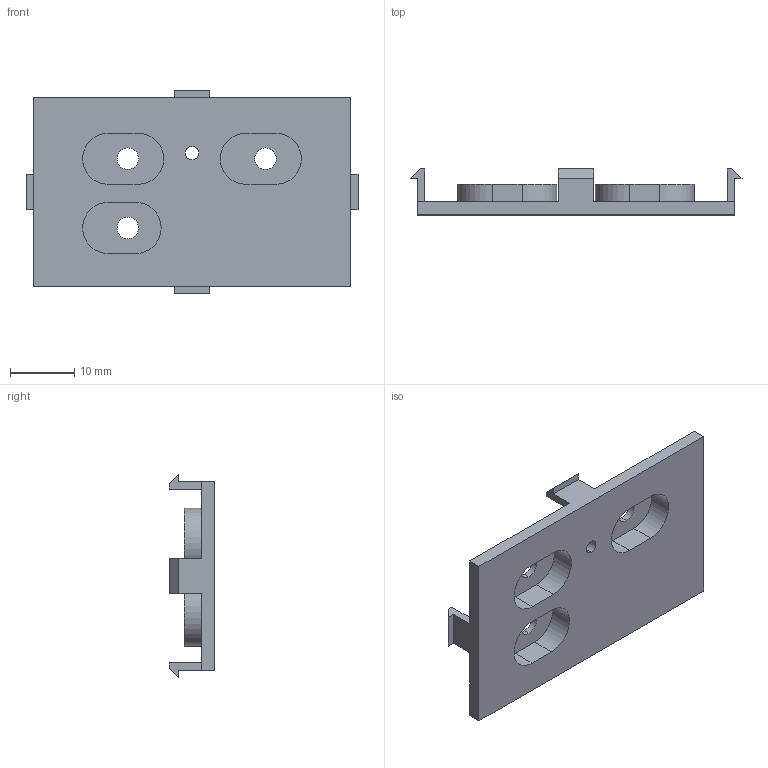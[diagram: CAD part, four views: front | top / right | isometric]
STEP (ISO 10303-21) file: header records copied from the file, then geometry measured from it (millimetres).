
FILE_DESCRIPTION (( 'STEP AP214' ), '1' );
FILE_NAME ('Tapeta Botones PP64D.STEP', '2017-09-14T07:13:55', ( 'aaa' ), ( '' ), 'SwSTEP 2.0', 'SolidWorks 2013', '' );
FILE_SCHEMA (( 'AUTOMOTIVE_DESIGN' ));
Length unit declared in the file: millimetre
Products named in the file (1): Tapeta Botones PP64D
Bounding box: 51.62 x 7.15 x 31.6 mm (x, y, z)
Volume: 3258.5 mm3; surface area: 4257.9 mm2
Topology: 1 solids, 1 shells, 71 faces, 186 edges, 124 vertices
Faces by surface type: plane 49, cylinder 20, cone 2
Entity records: 2234 total; most frequent: CARTESIAN_POINT 382, DIRECTION 374, ORIENTED_EDGE 372, EDGE_CURVE 186, VECTOR 142, LINE 142, VERTEX_POINT 124, AXIS2_PLACEMENT_3D 116
